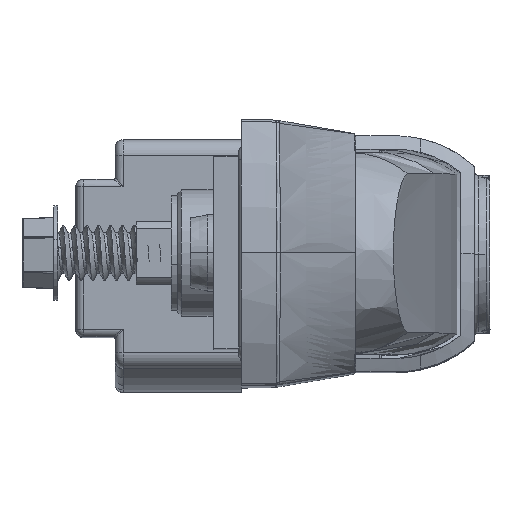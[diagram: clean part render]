
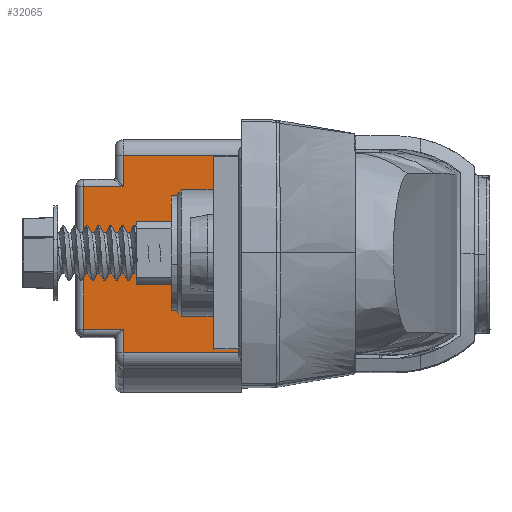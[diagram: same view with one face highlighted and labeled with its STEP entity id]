
A CAD part, top view. The second image highlights one B-rep face of the part: STEP entity #32065.
In plain terms, the highlighted planar face has unit normal (0, 0, 1) as drawn and (1, 0, 0) by its records, which use the part's own axes.
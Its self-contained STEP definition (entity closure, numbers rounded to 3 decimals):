
#9456 = ORIENTED_EDGE ( 'NONE', *, *, #9461, .T. ) ;
#9457 = EDGE_CURVE ( 'NONE', #31686, #9460, #13212, .T. ) ;
#9459 = ORIENTED_EDGE ( 'NONE', *, *, #9473, .T. ) ;
#9460 = VERTEX_POINT ( 'NONE', #13165 ) ;
#9461 = EDGE_CURVE ( 'NONE', #9464, #31835, #13206, .T. ) ;
#9462 = EDGE_CURVE ( 'NONE', #9460, #9464, #13215, .T. ) ;
#9463 = ORIENTED_EDGE ( 'NONE', *, *, #9462, .T. ) ;
#9464 = VERTEX_POINT ( 'NONE', #13202 ) ;
#9467 = ORIENTED_EDGE ( 'NONE', *, *, #32005, .T. ) ;
#9468 = VERTEX_POINT ( 'NONE', #13207 ) ;
#9469 = EDGE_CURVE ( 'NONE', #9468, #31945, #13214, .T. ) ;
#9471 = ORIENTED_EDGE ( 'NONE', *, *, #39063, .T. ) ;
#9472 = ORIENTED_EDGE ( 'NONE', *, *, #9469, .T. ) ;
#9473 = EDGE_CURVE ( 'NONE', #31835, #9468, #13178, .T. ) ;
#13165 = CARTESIAN_POINT ( 'NONE',  ( -21.047, 20.46, 15. ) ) ;
#13175 = DIRECTION ( 'NONE',  ( 0., 0., -1. ) ) ;
#13176 = VECTOR ( 'NONE', #13175, 1000. ) ;
#13177 = CARTESIAN_POINT ( 'NONE',  ( -21.047, 2.46, 16. ) ) ;
#13178 = LINE ( 'NONE', #13177, #13176 ) ;
#13184 = DIRECTION ( 'NONE',  ( 0., -1., 0. ) ) ;
#13185 = VECTOR ( 'NONE', #13184, 1000. ) ;
#13199 = DIRECTION ( 'NONE',  ( 0., 0., 1. ) ) ;
#13200 = VECTOR ( 'NONE', #13199, 1000. ) ;
#13201 = CARTESIAN_POINT ( 'NONE',  ( -21.047, 20.46, 16. ) ) ;
#13202 = CARTESIAN_POINT ( 'NONE',  ( -21.047, 20.46, 20. ) ) ;
#13203 = DIRECTION ( 'NONE',  ( 0., -1., 0. ) ) ;
#13204 = VECTOR ( 'NONE', #13203, 1000. ) ;
#13205 = CARTESIAN_POINT ( 'NONE',  ( -21.047, 24.46, 20. ) ) ;
#13206 = LINE ( 'NONE', #13205, #13204 ) ;
#13207 = CARTESIAN_POINT ( 'NONE',  ( -21.047, 2.46, 15. ) ) ;
#13209 = DIRECTION ( 'NONE',  ( 0., -1., 0. ) ) ;
#13210 = VECTOR ( 'NONE', #13209, 1000. ) ;
#13211 = CARTESIAN_POINT ( 'NONE',  ( -21.047, 24.46, 15. ) ) ;
#13212 = LINE ( 'NONE', #13211, #13210 ) ;
#13213 = CARTESIAN_POINT ( 'NONE',  ( -21.047, 24.46, 15. ) ) ;
#13214 = LINE ( 'NONE', #13213, #13185 ) ;
#13215 = LINE ( 'NONE', #13201, #13200 ) ;
#28762 = CARTESIAN_POINT ( 'NONE',  ( -21.047, -0.54, 15. ) ) ;
#28763 = DIRECTION ( 'NONE',  ( 0., 0., -1. ) ) ;
#28764 = CARTESIAN_POINT ( 'NONE',  ( -21.047, 24.46, 16. ) ) ;
#28774 = CARTESIAN_POINT ( 'NONE',  ( -21.047, 2.46, 20. ) ) ;
#28788 = LINE ( 'NONE', #28764, #28827 ) ;
#28790 = CARTESIAN_POINT ( 'NONE',  ( -21.047, 24.46, 15. ) ) ;
#28797 = DIRECTION ( 'NONE',  ( 0., 0., -1. ) ) ;
#28798 = VECTOR ( 'NONE', #28797, 1000. ) ;
#28799 = CARTESIAN_POINT ( 'NONE',  ( -21.047, -0.54, 16. ) ) ;
#28800 = LINE ( 'NONE', #28799, #28798 ) ;
#28827 = VECTOR ( 'NONE', #28763, 1000. ) ;
#28831 = PLANE ( 'NONE',  #28881 ) ;
#28832 = FACE_OUTER_BOUND ( 'NONE', #31916, .T. ) ;
#28878 = DIRECTION ( 'NONE',  ( 0., -1., 0. ) ) ;
#28879 = DIRECTION ( 'NONE',  ( -1., 0., 0. ) ) ;
#28880 = CARTESIAN_POINT ( 'NONE',  ( -21.047, 24.46, 16. ) ) ;
#28881 = AXIS2_PLACEMENT_3D ( 'NONE', #28880, #28879, #28878 ) ;
#30010 = CARTESIAN_POINT ( 'NONE',  ( -21.047, 24.46, 0. ) ) ;
#30011 = LINE ( 'NONE', #30010, #30065 ) ;
#30064 = DIRECTION ( 'NONE',  ( 0., 1., 0. ) ) ;
#30065 = VECTOR ( 'NONE', #30064, 1000. ) ;
#30068 = CARTESIAN_POINT ( 'NONE',  ( -21.047, -0.54, 0. ) ) ;
#31686 = VERTEX_POINT ( 'NONE', #28790 ) ;
#31768 = ORIENTED_EDGE ( 'NONE', *, *, #9457, .T. ) ;
#31835 = VERTEX_POINT ( 'NONE', #28774 ) ;
#31865 = EDGE_CURVE ( 'NONE', #31686, #40818, #28788, .T. ) ;
#31911 = ORIENTED_EDGE ( 'NONE', *, *, #31865, .F. ) ;
#31916 = EDGE_LOOP ( 'NONE', ( #31911, #31768, #9463, #9456, #9459, #9472, #9467, #9471 ) ) ;
#31945 = VERTEX_POINT ( 'NONE', #28762 ) ;
#32005 = EDGE_CURVE ( 'NONE', #31945, #39076, #28800, .T. ) ;
#32065 = ADVANCED_FACE ( 'NONE', ( #28832 ), #28831, .F. ) ;
#32326 = CARTESIAN_POINT ( 'NONE',  ( -21.047, 24.46, 0. ) ) ;
#39063 = EDGE_CURVE ( 'NONE', #39076, #40818, #30011, .T. ) ;
#39076 = VERTEX_POINT ( 'NONE', #30068 ) ;
#40818 = VERTEX_POINT ( 'NONE', #32326 ) ;
